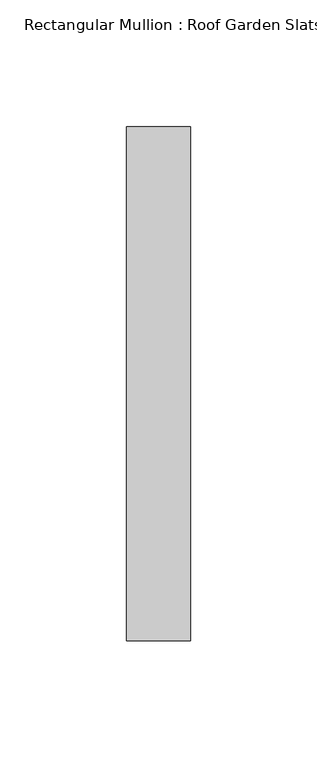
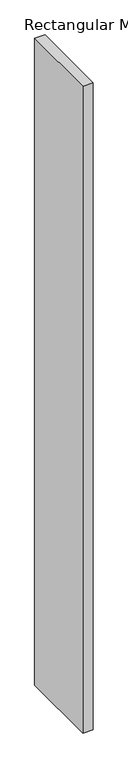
"""IFC4 building model written with IfcOpenShell, lengths in millimetres: member geometry, Rectangular Mullion : Roof Garden Slats."""

from ifc_helpers import new_model, si_unit, frame, origin, place, context, project, spatial, polyline, outline, extrude, source, transform, mapped, element, save


def rectangular_mullion_roof_garden_slats_f110a96a(model_context):
    return source(origin(), model_context, "Body", "SweptSolid", [
        extrude(outline(polyline([(12.7, 139.7), (12.7, -63.5), (-12.7, -63.5), (-12.7, 139.7), (12.7, 139.7)])), frame((0.0, 0.0, -1667.4799982), z_axis=(0.0, 0.0, 1.0), x_axis=(1.0, 0.0, 0.0)), (0.0, 0.0, 1.0), 1667.4799982),
    ])


if __name__ == "__main__":
    model = new_model("IFC4")
    model_context = context("Model", 3, world=origin())
    ifc_project = project(units=[si_unit("LENGTHUNIT", "METRE", prefix="MILLI")], contexts=[model_context])
    site = spatial("IfcSite", under=ifc_project)
    building = spatial("IfcBuilding", under=site)
    placement = place(None, origin())
    rectangular_mullion_roof_garden_slats_shape = rectangular_mullion_roof_garden_slats_f110a96a(model_context)
    element("IfcMember", 1, ObjectType="Rectangular Mullion : Roof Garden Slats", at=placement, inside=building, context=model_context, shape_type="MappedRepresentation", body=[
        mapped(rectangular_mullion_roof_garden_slats_shape, transform((0.0, 0.0, 0.0), x_axis=(1.0, 0.0, 0.0), y_axis=(0.0, 1.0, 0.0), z_axis=(0.0, 0.0, 1.0))),
    ])
    save(model, "model.ifc")
